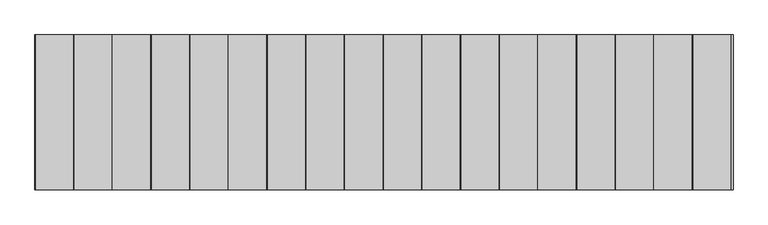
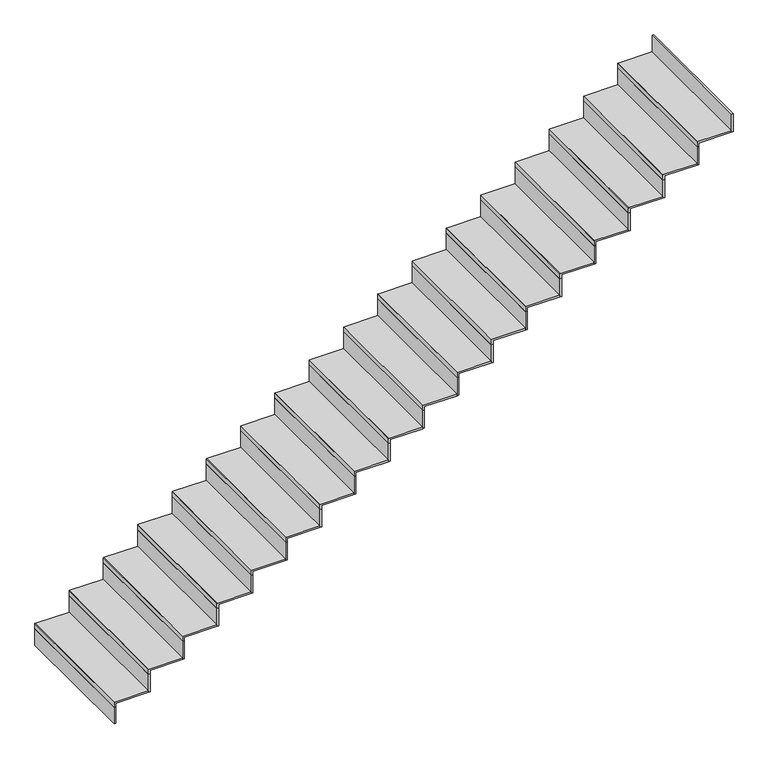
"""IFC4 building model written with IfcOpenShell, lengths in millimetres: stair flight geometry, Forte_StairNosingRun_12.5mmTread_Square."""

from ifc_helpers import new_model, si_unit, point, frame, frame_2d, origin, origin_with_axes, place, context, project, spatial, polyline, circle_curve, trimmed, segment, composite_curve, outline, extrude, source, transform, mapped, element, save


def stair_flight_d3969170(model_context):
    return source(origin(), model_context, "Body", "SweptSolid", [
        extrude(outline(composite_curve([segment(polyline([(166.6666667, -3213.7983088), (166.6666667, -3462.5983088)]), True, "CONTINUOUS"), segment(trimmed(circle_curve(frame_2d((165.4666667, -3462.5983088)), 1.2), [point((166.6666667, -3462.5983088))], [point((165.4666667, -3463.7983088))], False, "CARTESIAN"), True, "CONTINUOUS"), segment(polyline([(165.4666667, -3463.7983088), (126.6666667, -3463.7983088), (126.6666667, -3451.2983088), (154.1666667, -3451.2983088), (154.1666667, -3213.7983088), (166.6666667, -3213.7983088)]), True, "CONTINUOUS")], self_intersect=False)), frame((0.0, 5330.793368, 0.0), z_axis=(0.0, 1.0, 0.0), x_axis=(0.0, 0.0, 1.0)), (0.0, 0.0, 1.0), 1000.0),
        extrude(outline(polyline([(-3451.2983088, 5330.793368), (-3463.7983088, 5330.793368), (-3463.7983088, 6330.793368), (-3451.2983088, 6330.793368), (-3451.2983088, 5330.793368)])), origin_with_axes(), (0.0, 0.0, 1.0), 126.6666667),
        extrude(outline(polyline([(-3201.2983088, 5330.793368), (-3213.7983088, 5330.793368), (-3213.7983088, 6330.793368), (-3201.2983088, 6330.793368), (-3201.2983088, 5330.793368)])), frame((0.0, 0.0, 154.1666667), z_axis=(0.0, 0.0, 1.0), x_axis=(1.0, 0.0, 0.0)), (0.0, 0.0, 1.0), 139.1666667),
        extrude(outline(composite_curve([segment(polyline([(333.3333333, -2963.7983088), (333.3333333, -3212.5983088)]), True, "CONTINUOUS"), segment(trimmed(circle_curve(frame_2d((332.1333333, -3212.5983088)), 1.2), [point((333.3333333, -3212.5983088))], [point((332.1333333, -3213.7983088))], False, "CARTESIAN"), True, "CONTINUOUS"), segment(polyline([(332.1333333, -3213.7983088), (293.3333333, -3213.7983088), (293.3333333, -3201.2983088), (320.8333333, -3201.2983088), (320.8333333, -2963.7983088), (333.3333333, -2963.7983088)]), True, "CONTINUOUS")], self_intersect=False)), frame((0.0, 5330.793368, 0.0), z_axis=(0.0, 1.0, 0.0), x_axis=(0.0, 0.0, 1.0)), (0.0, 0.0, 1.0), 1000.0),
        extrude(outline(polyline([(-2951.2983088, 5330.793368), (-2963.7983088, 5330.793368), (-2963.7983088, 6330.793368), (-2951.2983088, 6330.793368), (-2951.2983088, 5330.793368)])), frame((0.0, 0.0, 320.8333333), z_axis=(0.0, 0.0, 1.0), x_axis=(1.0, 0.0, 0.0)), (0.0, 0.0, 1.0), 139.1666667),
        extrude(outline(composite_curve([segment(polyline([(500.0, -2713.7983088), (500.0, -2962.5983088)]), True, "CONTINUOUS"), segment(trimmed(circle_curve(frame_2d((498.8, -2962.5983088)), 1.2), [point((500.0, -2962.5983088))], [point((498.8, -2963.7983088))], False, "CARTESIAN"), True, "CONTINUOUS"), segment(polyline([(498.8, -2963.7983088), (460.0, -2963.7983088), (460.0, -2951.2983088), (487.5, -2951.2983088), (487.5, -2713.7983088), (500.0, -2713.7983088)]), True, "CONTINUOUS")], self_intersect=False)), frame((0.0, 5330.793368, 0.0), z_axis=(0.0, 1.0, 0.0), x_axis=(0.0, 0.0, 1.0)), (0.0, 0.0, 1.0), 1000.0),
        extrude(outline(polyline([(-2701.2983088, 5330.793368), (-2713.7983088, 5330.793368), (-2713.7983088, 6330.793368), (-2701.2983088, 6330.793368), (-2701.2983088, 5330.793368)])), frame((0.0, 0.0, 487.5), z_axis=(0.0, 0.0, 1.0), x_axis=(1.0, 0.0, 0.0)), (0.0, 0.0, 1.0), 139.1666667),
        extrude(outline(composite_curve([segment(polyline([(666.6666667, -2463.7983088), (666.6666667, -2712.5983088)]), True, "CONTINUOUS"), segment(trimmed(circle_curve(frame_2d((665.4666667, -2712.5983088)), 1.2), [point((666.6666667, -2712.5983088))], [point((665.4666667, -2713.7983088))], False, "CARTESIAN"), True, "CONTINUOUS"), segment(polyline([(665.4666667, -2713.7983088), (626.6666667, -2713.7983088), (626.6666667, -2701.2983088), (654.1666667, -2701.2983088), (654.1666667, -2463.7983088), (666.6666667, -2463.7983088)]), True, "CONTINUOUS")], self_intersect=False)), frame((0.0, 5330.793368, 0.0), z_axis=(0.0, 1.0, 0.0), x_axis=(0.0, 0.0, 1.0)), (0.0, 0.0, 1.0), 1000.0),
        extrude(outline(polyline([(-2451.2983088, 5330.793368), (-2463.7983088, 5330.793368), (-2463.7983088, 6330.793368), (-2451.2983088, 6330.793368), (-2451.2983088, 5330.793368)])), frame((0.0, 0.0, 654.1666667), z_axis=(0.0, 0.0, 1.0), x_axis=(1.0, 0.0, 0.0)), (0.0, 0.0, 1.0), 139.1666667),
        extrude(outline(composite_curve([segment(polyline([(833.3333333, -2213.7983088), (833.3333333, -2462.5983088)]), True, "CONTINUOUS"), segment(trimmed(circle_curve(frame_2d((832.1333333, -2462.5983088)), 1.2), [point((833.3333333, -2462.5983088))], [point((832.1333333, -2463.7983088))], False, "CARTESIAN"), True, "CONTINUOUS"), segment(polyline([(832.1333333, -2463.7983088), (793.3333333, -2463.7983088), (793.3333333, -2451.2983088), (820.8333333, -2451.2983088), (820.8333333, -2213.7983088), (833.3333333, -2213.7983088)]), True, "CONTINUOUS")], self_intersect=False)), frame((0.0, 5330.793368, 0.0), z_axis=(0.0, 1.0, 0.0), x_axis=(0.0, 0.0, 1.0)), (0.0, 0.0, 1.0), 1000.0),
        extrude(outline(polyline([(-2201.2983088, 5330.793368), (-2213.7983088, 5330.793368), (-2213.7983088, 6330.793368), (-2201.2983088, 6330.793368), (-2201.2983088, 5330.793368)])), frame((0.0, 0.0, 820.8333333), z_axis=(0.0, 0.0, 1.0), x_axis=(1.0, 0.0, 0.0)), (0.0, 0.0, 1.0), 139.1666667),
        extrude(outline(composite_curve([segment(polyline([(1000.0, -1963.7983088), (1000.0, -2212.5983088)]), True, "CONTINUOUS"), segment(trimmed(circle_curve(frame_2d((998.8, -2212.5983088)), 1.2), [point((1000.0, -2212.5983088))], [point((998.8, -2213.7983088))], False, "CARTESIAN"), True, "CONTINUOUS"), segment(polyline([(998.8, -2213.7983088), (960.0, -2213.7983088), (960.0, -2201.2983088), (987.5, -2201.2983088), (987.5, -1963.7983088), (1000.0, -1963.7983088)]), True, "CONTINUOUS")], self_intersect=False)), frame((0.0, 5330.793368, 0.0), z_axis=(0.0, 1.0, 0.0), x_axis=(0.0, 0.0, 1.0)), (0.0, 0.0, 1.0), 1000.0),
        extrude(outline(polyline([(-1951.2983088, 5330.793368), (-1963.7983088, 5330.793368), (-1963.7983088, 6330.793368), (-1951.2983088, 6330.793368), (-1951.2983088, 5330.793368)])), frame((0.0, 0.0, 987.5), z_axis=(0.0, 0.0, 1.0), x_axis=(1.0, 0.0, 0.0)), (0.0, 0.0, 1.0), 139.1666667),
        extrude(outline(composite_curve([segment(polyline([(1166.6666667, -1713.7983088), (1166.6666667, -1962.5983088)]), True, "CONTINUOUS"), segment(trimmed(circle_curve(frame_2d((1165.4666667, -1962.5983088)), 1.2), [point((1166.6666667, -1962.5983088))], [point((1165.4666667, -1963.7983088))], False, "CARTESIAN"), True, "CONTINUOUS"), segment(polyline([(1165.4666667, -1963.7983088), (1126.6666667, -1963.7983088), (1126.6666667, -1951.2983088), (1154.1666667, -1951.2983088), (1154.1666667, -1713.7983088), (1166.6666667, -1713.7983088)]), True, "CONTINUOUS")], self_intersect=False)), frame((0.0, 5330.793368, 0.0), z_axis=(0.0, 1.0, 0.0), x_axis=(0.0, 0.0, 1.0)), (0.0, 0.0, 1.0), 1000.0),
        extrude(outline(polyline([(-1701.2983088, 5330.793368), (-1713.7983088, 5330.793368), (-1713.7983088, 6330.793368), (-1701.2983088, 6330.793368), (-1701.2983088, 5330.793368)])), frame((0.0, 0.0, 1154.1666667), z_axis=(0.0, 0.0, 1.0), x_axis=(1.0, 0.0, 0.0)), (0.0, 0.0, 1.0), 139.1666667),
        extrude(outline(composite_curve([segment(polyline([(1333.3333333, -1463.7983088), (1333.3333333, -1712.5983088)]), True, "CONTINUOUS"), segment(trimmed(circle_curve(frame_2d((1332.1333333, -1712.5983088)), 1.2), [point((1333.3333333, -1712.5983088))], [point((1332.1333333, -1713.7983088))], False, "CARTESIAN"), True, "CONTINUOUS"), segment(polyline([(1332.1333333, -1713.7983088), (1293.3333333, -1713.7983088), (1293.3333333, -1701.2983088), (1320.8333333, -1701.2983088), (1320.8333333, -1463.7983088), (1333.3333333, -1463.7983088)]), True, "CONTINUOUS")], self_intersect=False)), frame((0.0, 5330.793368, 0.0), z_axis=(0.0, 1.0, 0.0), x_axis=(0.0, 0.0, 1.0)), (0.0, 0.0, 1.0), 1000.0),
        extrude(outline(polyline([(-1451.2983088, 5330.793368), (-1463.7983088, 5330.793368), (-1463.7983088, 6330.793368), (-1451.2983088, 6330.793368), (-1451.2983088, 5330.793368)])), frame((0.0, 0.0, 1320.8333333), z_axis=(0.0, 0.0, 1.0), x_axis=(1.0, 0.0, 0.0)), (0.0, 0.0, 1.0), 139.1666667),
        extrude(outline(composite_curve([segment(polyline([(1500.0, -1213.7983088), (1500.0, -1462.5983088)]), True, "CONTINUOUS"), segment(trimmed(circle_curve(frame_2d((1498.8, -1462.5983088)), 1.2), [point((1500.0, -1462.5983088))], [point((1498.8, -1463.7983088))], False, "CARTESIAN"), True, "CONTINUOUS"), segment(polyline([(1498.8, -1463.7983088), (1460.0, -1463.7983088), (1460.0, -1451.2983088), (1487.5, -1451.2983088), (1487.5, -1213.7983088), (1500.0, -1213.7983088)]), True, "CONTINUOUS")], self_intersect=False)), frame((0.0, 5330.793368, 0.0), z_axis=(0.0, 1.0, 0.0), x_axis=(0.0, 0.0, 1.0)), (0.0, 0.0, 1.0), 1000.0),
        extrude(outline(polyline([(-1201.2983088, 5330.793368), (-1213.7983088, 5330.793368), (-1213.7983088, 6330.793368), (-1201.2983088, 6330.793368), (-1201.2983088, 5330.793368)])), frame((0.0, 0.0, 1487.5), z_axis=(0.0, 0.0, 1.0), x_axis=(1.0, 0.0, 0.0)), (0.0, 0.0, 1.0), 139.1666667),
        extrude(outline(composite_curve([segment(polyline([(1666.6666667, -963.7983088), (1666.6666667, -1212.5983088)]), True, "CONTINUOUS"), segment(trimmed(circle_curve(frame_2d((1665.4666667, -1212.5983088)), 1.2), [point((1666.6666667, -1212.5983088))], [point((1665.4666667, -1213.7983088))], False, "CARTESIAN"), True, "CONTINUOUS"), segment(polyline([(1665.4666667, -1213.7983088), (1626.6666667, -1213.7983088), (1626.6666667, -1201.2983088), (1654.1666667, -1201.2983088), (1654.1666667, -963.7983088), (1666.6666667, -963.7983088)]), True, "CONTINUOUS")], self_intersect=False)), frame((0.0, 5330.793368, 0.0), z_axis=(0.0, 1.0, 0.0), x_axis=(0.0, 0.0, 1.0)), (0.0, 0.0, 1.0), 1000.0),
        extrude(outline(polyline([(-951.2983088, 5330.793368), (-963.7983088, 5330.793368), (-963.7983088, 6330.793368), (-951.2983088, 6330.793368), (-951.2983088, 5330.793368)])), frame((0.0, 0.0, 1654.1666667), z_axis=(0.0, 0.0, 1.0), x_axis=(1.0, 0.0, 0.0)), (0.0, 0.0, 1.0), 139.1666667),
        extrude(outline(composite_curve([segment(polyline([(1833.3333333, -713.7983088), (1833.3333333, -962.5983088)]), True, "CONTINUOUS"), segment(trimmed(circle_curve(frame_2d((1832.1333333, -962.5983088)), 1.2), [point((1833.3333333, -962.5983088))], [point((1832.1333333, -963.7983088))], False, "CARTESIAN"), True, "CONTINUOUS"), segment(polyline([(1832.1333333, -963.7983088), (1793.3333333, -963.7983088), (1793.3333333, -951.2983088), (1820.8333333, -951.2983088), (1820.8333333, -713.7983088), (1833.3333333, -713.7983088)]), True, "CONTINUOUS")], self_intersect=False)), frame((0.0, 5330.793368, 0.0), z_axis=(0.0, 1.0, 0.0), x_axis=(0.0, 0.0, 1.0)), (0.0, 0.0, 1.0), 1000.0),
        extrude(outline(polyline([(-701.2983088, 5330.793368), (-713.7983088, 5330.793368), (-713.7983088, 6330.793368), (-701.2983088, 6330.793368), (-701.2983088, 5330.793368)])), frame((0.0, 0.0, 1820.8333333), z_axis=(0.0, 0.0, 1.0), x_axis=(1.0, 0.0, 0.0)), (0.0, 0.0, 1.0), 139.1666667),
        extrude(outline(composite_curve([segment(polyline([(2000.0, -463.7983088), (2000.0, -712.5983088)]), True, "CONTINUOUS"), segment(trimmed(circle_curve(frame_2d((1998.8, -712.5983088)), 1.2), [point((2000.0, -712.5983088))], [point((1998.8, -713.7983088))], False, "CARTESIAN"), True, "CONTINUOUS"), segment(polyline([(1998.8, -713.7983088), (1960.0, -713.7983088), (1960.0, -701.2983088), (1987.5, -701.2983088), (1987.5, -463.7983088), (2000.0, -463.7983088)]), True, "CONTINUOUS")], self_intersect=False)), frame((0.0, 5330.793368, 0.0), z_axis=(0.0, 1.0, 0.0), x_axis=(0.0, 0.0, 1.0)), (0.0, 0.0, 1.0), 1000.0),
        extrude(outline(polyline([(-451.2983088, 5330.793368), (-463.7983088, 5330.793368), (-463.7983088, 6330.793368), (-451.2983088, 6330.793368), (-451.2983088, 5330.793368)])), frame((0.0, 0.0, 1987.5), z_axis=(0.0, 0.0, 1.0), x_axis=(1.0, 0.0, 0.0)), (0.0, 0.0, 1.0), 139.1666667),
        extrude(outline(composite_curve([segment(polyline([(2166.6666667, -213.7983088), (2166.6666667, -462.5983088)]), True, "CONTINUOUS"), segment(trimmed(circle_curve(frame_2d((2165.4666667, -462.5983088)), 1.2), [point((2166.6666667, -462.5983088))], [point((2165.4666667, -463.7983088))], False, "CARTESIAN"), True, "CONTINUOUS"), segment(polyline([(2165.4666667, -463.7983088), (2126.6666667, -463.7983088), (2126.6666667, -451.2983088), (2154.1666667, -451.2983088), (2154.1666667, -213.7983088), (2166.6666667, -213.7983088)]), True, "CONTINUOUS")], self_intersect=False)), frame((0.0, 5330.793368, 0.0), z_axis=(0.0, 1.0, 0.0), x_axis=(0.0, 0.0, 1.0)), (0.0, 0.0, 1.0), 1000.0),
        extrude(outline(polyline([(-201.2983088, 5330.793368), (-213.7983088, 5330.793368), (-213.7983088, 6330.793368), (-201.2983088, 6330.793368), (-201.2983088, 5330.793368)])), frame((0.0, 0.0, 2154.1666667), z_axis=(0.0, 0.0, 1.0), x_axis=(1.0, 0.0, 0.0)), (0.0, 0.0, 1.0), 139.1666667),
        extrude(outline(composite_curve([segment(polyline([(2333.3333333, 36.2016912), (2333.3333333, -212.5983088)]), True, "CONTINUOUS"), segment(trimmed(circle_curve(frame_2d((2332.1333333, -212.5983088)), 1.2), [point((2333.3333333, -212.5983088))], [point((2332.1333333, -213.7983088))], False, "CARTESIAN"), True, "CONTINUOUS"), segment(polyline([(2332.1333333, -213.7983088), (2293.3333333, -213.7983088), (2293.3333333, -201.2983088), (2320.8333333, -201.2983088), (2320.8333333, 36.2016912), (2333.3333333, 36.2016912)]), True, "CONTINUOUS")], self_intersect=False)), frame((0.0, 5330.793368, 0.0), z_axis=(0.0, 1.0, 0.0), x_axis=(0.0, 0.0, 1.0)), (0.0, 0.0, 1.0), 1000.0),
        extrude(outline(polyline([(48.7016912, 5330.793368), (36.2016912, 5330.793368), (36.2016912, 6330.793368), (48.7016912, 6330.793368), (48.7016912, 5330.793368)])), frame((0.0, 0.0, 2320.8333333), z_axis=(0.0, 0.0, 1.0), x_axis=(1.0, 0.0, 0.0)), (0.0, 0.0, 1.0), 139.1666667),
        extrude(outline(composite_curve([segment(polyline([(2500.0, 286.2016912), (2500.0, 37.4016912)]), True, "CONTINUOUS"), segment(trimmed(circle_curve(frame_2d((2498.8, 37.4016912)), 1.2), [point((2500.0, 37.4016912))], [point((2498.8, 36.2016912))], False, "CARTESIAN"), True, "CONTINUOUS"), segment(polyline([(2498.8, 36.2016912), (2460.0, 36.2016912), (2460.0, 48.7016912), (2487.5, 48.7016912), (2487.5, 286.2016912), (2500.0, 286.2016912)]), True, "CONTINUOUS")], self_intersect=False)), frame((0.0, 5330.793368, 0.0), z_axis=(0.0, 1.0, 0.0), x_axis=(0.0, 0.0, 1.0)), (0.0, 0.0, 1.0), 1000.0),
        extrude(outline(polyline([(298.7016912, 5330.793368), (286.2016912, 5330.793368), (286.2016912, 6330.793368), (298.7016912, 6330.793368), (298.7016912, 5330.793368)])), frame((0.0, 0.0, 2487.5), z_axis=(0.0, 0.0, 1.0), x_axis=(1.0, 0.0, 0.0)), (0.0, 0.0, 1.0), 139.1666667),
        extrude(outline(composite_curve([segment(polyline([(2666.6666667, 536.2016912), (2666.6666667, 287.4016912)]), True, "CONTINUOUS"), segment(trimmed(circle_curve(frame_2d((2665.4666667, 287.4016912)), 1.2), [point((2666.6666667, 287.4016912))], [point((2665.4666667, 286.2016912))], False, "CARTESIAN"), True, "CONTINUOUS"), segment(polyline([(2665.4666667, 286.2016912), (2626.6666667, 286.2016912), (2626.6666667, 298.7016912), (2654.1666667, 298.7016912), (2654.1666667, 536.2016912), (2666.6666667, 536.2016912)]), True, "CONTINUOUS")], self_intersect=False)), frame((0.0, 5330.793368, 0.0), z_axis=(0.0, 1.0, 0.0), x_axis=(0.0, 0.0, 1.0)), (0.0, 0.0, 1.0), 1000.0),
        extrude(outline(polyline([(548.7016912, 5330.793368), (536.2016912, 5330.793368), (536.2016912, 6330.793368), (548.7016912, 6330.793368), (548.7016912, 5330.793368)])), frame((0.0, 0.0, 2654.1666667), z_axis=(0.0, 0.0, 1.0), x_axis=(1.0, 0.0, 0.0)), (0.0, 0.0, 1.0), 139.1666667),
        extrude(outline(composite_curve([segment(polyline([(2833.3333333, 786.2016912), (2833.3333333, 537.4016912)]), True, "CONTINUOUS"), segment(trimmed(circle_curve(frame_2d((2832.1333333, 537.4016912)), 1.2), [point((2833.3333333, 537.4016912))], [point((2832.1333333, 536.2016912))], False, "CARTESIAN"), True, "CONTINUOUS"), segment(polyline([(2832.1333333, 536.2016912), (2793.3333333, 536.2016912), (2793.3333333, 548.7016912), (2820.8333333, 548.7016912), (2820.8333333, 786.2016912), (2833.3333333, 786.2016912)]), True, "CONTINUOUS")], self_intersect=False)), frame((0.0, 5330.793368, 0.0), z_axis=(0.0, 1.0, 0.0), x_axis=(0.0, 0.0, 1.0)), (0.0, 0.0, 1.0), 1000.0),
        extrude(outline(polyline([(798.7016912, 5330.793368), (786.2016912, 5330.793368), (786.2016912, 6330.793368), (798.7016912, 6330.793368), (798.7016912, 5330.793368)])), frame((0.0, 0.0, 2820.8333333), z_axis=(0.0, 0.0, 1.0), x_axis=(1.0, 0.0, 0.0)), (0.0, 0.0, 1.0), 139.1666667),
        extrude(outline(polyline([(1048.7016912, 5330.793368), (1036.2016912, 5330.793368), (1036.2016912, 6330.793368), (1048.7016912, 6330.793368), (1048.7016912, 5330.793368)])), frame((0.0, 0.0, 2987.5), z_axis=(0.0, 0.0, 1.0), x_axis=(1.0, 0.0, 0.0)), (0.0, 0.0, 1.0), 139.1666667),
        extrude(outline(composite_curve([segment(polyline([(3000.0, 1036.2016912), (3000.0, 787.4016912)]), True, "CONTINUOUS"), segment(trimmed(circle_curve(frame_2d((2998.8, 787.4016912)), 1.2), [point((3000.0, 787.4016912))], [point((2998.8, 786.2016912))], False, "CARTESIAN"), True, "CONTINUOUS"), segment(polyline([(2998.8, 786.2016912), (2960.0, 786.2016912), (2960.0, 798.7016912), (2987.5, 798.7016912), (2987.5, 1036.2016912), (3000.0, 1036.2016912)]), True, "CONTINUOUS")], self_intersect=False)), frame((0.0, 5330.793368, 0.0), z_axis=(0.0, 1.0, 0.0), x_axis=(0.0, 0.0, 1.0)), (0.0, 0.0, 1.0), 1000.0),
    ])


if __name__ == "__main__":
    model = new_model("IFC4")
    model_context = context("Model", 3, world=origin())
    ifc_project = project(units=[si_unit("LENGTHUNIT", "METRE", prefix="MILLI")], contexts=[model_context])
    site = spatial("IfcSite", under=ifc_project)
    building = spatial("IfcBuilding", under=site)
    placement = place(None, origin())
    stair_flight_shape = stair_flight_d3969170(model_context)
    element("IfcStairFlight", 1, ObjectType="Forte_StairNosingRun_12.5mmTread_Square", at=placement, inside=building, context=model_context, shape_type="MappedRepresentation", body=[
        mapped(stair_flight_shape, transform((0.0, 0.0, 0.0), x_axis=(1.0, 0.0, 0.0), y_axis=(0.0, 1.0, 0.0), z_axis=(0.0, 0.0, 1.0))),
    ])
    save(model, "model.ifc")
